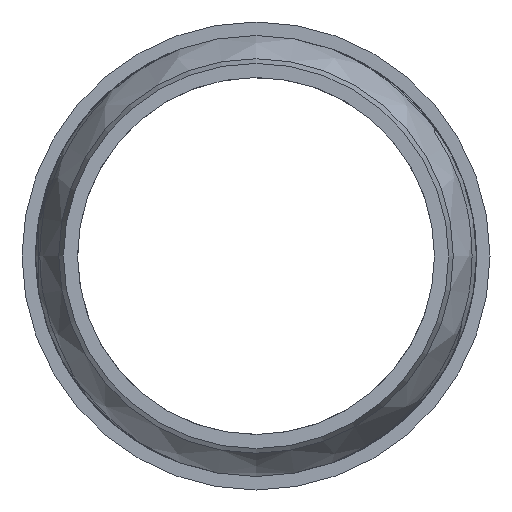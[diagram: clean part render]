
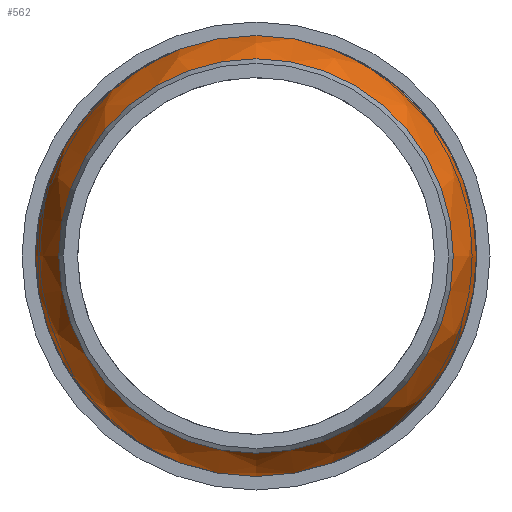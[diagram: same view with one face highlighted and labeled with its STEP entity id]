
A CAD part, left-side view. The second image highlights one B-rep face of the part: STEP entity #562.
In plain terms, the highlighted free-form (B-spline) face has degree [2, 2] with [3, 9] control points.
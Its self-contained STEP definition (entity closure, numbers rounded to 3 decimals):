
#11=(
BOUNDED_CURVE()
B_SPLINE_CURVE(2,(#2117,#2118,#2119),.UNSPECIFIED.,.F.,.F.)
B_SPLINE_CURVE_WITH_KNOTS((3,3),(0.109,0.66),
 .UNSPECIFIED.)
CURVE()
GEOMETRIC_REPRESENTATION_ITEM()
RATIONAL_B_SPLINE_CURVE((1.,0.962,1.))
REPRESENTATION_ITEM('')
);
#12=(
BOUNDED_SURFACE()
B_SPLINE_SURFACE(2,2,((#2090,#2091,#2092,#2093,#2094,#2095,#2096,#2097,
#2098),(#2099,#2100,#2101,#2102,#2103,#2104,#2105,#2106,#2107),(#2108,#2109,
#2110,#2111,#2112,#2113,#2114,#2115,#2116)),.UNSPECIFIED.,.F.,.T.,.F.)
B_SPLINE_SURFACE_WITH_KNOTS((3,3),(3,2,2,2,3),(-0.66,-0.109),
(-3.142,-1.571,0.,1.571,3.142),
 .UNSPECIFIED.)
GEOMETRIC_REPRESENTATION_ITEM()
RATIONAL_B_SPLINE_SURFACE(((1.,0.707,1.,0.707,1.,
0.707,1.,0.707,1.),(0.962,0.68,
0.962,0.68,0.962,0.68,
0.962,0.68,0.962),(1.,0.707,
1.,0.707,1.,0.707,1.,0.707,1.)))
REPRESENTATION_ITEM('')
SURFACE()
);
#147=FACE_OUTER_BOUND('',#207,.T.);
#207=EDGE_LOOP('',(#468,#469,#470,#471,#472,#473,#474));
#233=CIRCLE('',#603,50.4);
#234=CIRCLE('',#604,50.4);
#235=CIRCLE('',#605,50.4);
#241=CIRCLE('',#624,45.1);
#242=CIRCLE('',#625,45.1);
#275=VERTEX_POINT('',#1401);
#284=VERTEX_POINT('',#1813);
#285=VERTEX_POINT('',#1814);
#296=VERTEX_POINT('',#2086);
#297=VERTEX_POINT('',#2087);
#343=EDGE_CURVE('',#284,#285,#233,.T.);
#344=EDGE_CURVE('',#285,#275,#234,.T.);
#345=EDGE_CURVE('',#275,#284,#235,.T.);
#357=EDGE_CURVE('',#296,#297,#241,.T.);
#358=EDGE_CURVE('',#297,#296,#242,.T.);
#359=EDGE_CURVE('',#285,#297,#11,.T.);
#468=ORIENTED_EDGE('',*,*,#343,.F.);
#469=ORIENTED_EDGE('',*,*,#345,.F.);
#470=ORIENTED_EDGE('',*,*,#344,.F.);
#471=ORIENTED_EDGE('',*,*,#359,.T.);
#472=ORIENTED_EDGE('',*,*,#358,.T.);
#473=ORIENTED_EDGE('',*,*,#357,.T.);
#474=ORIENTED_EDGE('',*,*,#359,.F.);
#562=ADVANCED_FACE('',(#147),#12,.F.);
#603=AXIS2_PLACEMENT_3D('',#1815,#697,#698);
#604=AXIS2_PLACEMENT_3D('',#1816,#699,#700);
#605=AXIS2_PLACEMENT_3D('',#1817,#701,#702);
#624=AXIS2_PLACEMENT_3D('',#2088,#739,#740);
#625=AXIS2_PLACEMENT_3D('',#2089,#741,#742);
#697=DIRECTION('center_axis',(1.,0.,0.));
#698=DIRECTION('ref_axis',(0.,0.,
1.));
#699=DIRECTION('center_axis',(1.,0.,0.));
#700=DIRECTION('ref_axis',(0.,0.,
1.));
#701=DIRECTION('center_axis',(1.,0.,0.));
#702=DIRECTION('ref_axis',(0.,0.,
1.));
#739=DIRECTION('center_axis',(1.,0.,0.));
#740=DIRECTION('ref_axis',(0.,0.,
1.));
#741=DIRECTION('center_axis',(1.,0.,0.));
#742=DIRECTION('ref_axis',(0.,0.,
1.));
#1401=CARTESIAN_POINT('',(759.4,50.4,0.));
#1813=CARTESIAN_POINT('',(759.4,-50.4,0.));
#1814=CARTESIAN_POINT('',(759.4,0.,-50.4));
#1815=CARTESIAN_POINT('Origin',(759.4,0.,
0.));
#1816=CARTESIAN_POINT('Origin',(759.4,0.,
0.));
#1817=CARTESIAN_POINT('Origin',(759.4,0.,
0.));
#2086=CARTESIAN_POINT('',(746.3,-45.1,0.));
#2087=CARTESIAN_POINT('',(746.3,0.,-45.1));
#2088=CARTESIAN_POINT('Origin',(746.3,0.,
0.));
#2089=CARTESIAN_POINT('Origin',(746.3,0.,
0.));
#2090=CARTESIAN_POINT('Ctrl Pts',(746.3,0.,
-45.1));
#2091=CARTESIAN_POINT('Ctrl Pts',(746.3,45.1,-45.1));
#2092=CARTESIAN_POINT('Ctrl Pts',(746.3,45.1,0.));
#2093=CARTESIAN_POINT('Ctrl Pts',(746.3,45.1,45.1));
#2094=CARTESIAN_POINT('Ctrl Pts',(746.3,0.,
45.1));
#2095=CARTESIAN_POINT('Ctrl Pts',(746.3,-45.1,45.1));
#2096=CARTESIAN_POINT('Ctrl Pts',(746.3,-45.1,0.));
#2097=CARTESIAN_POINT('Ctrl Pts',(746.3,-45.1,-45.1));
#2098=CARTESIAN_POINT('Ctrl Pts',(746.3,0.,
-45.1));
#2099=CARTESIAN_POINT('Ctrl Pts',(752.102,0.,
-49.6));
#2100=CARTESIAN_POINT('Ctrl Pts',(752.102,49.6,-49.6));
#2101=CARTESIAN_POINT('Ctrl Pts',(752.102,49.6,0.));
#2102=CARTESIAN_POINT('Ctrl Pts',(752.102,49.6,49.6));
#2103=CARTESIAN_POINT('Ctrl Pts',(752.102,0.,
49.6));
#2104=CARTESIAN_POINT('Ctrl Pts',(752.102,-49.6,49.6));
#2105=CARTESIAN_POINT('Ctrl Pts',(752.102,-49.6,0.));
#2106=CARTESIAN_POINT('Ctrl Pts',(752.102,-49.6,-49.6));
#2107=CARTESIAN_POINT('Ctrl Pts',(752.102,0.,
-49.6));
#2108=CARTESIAN_POINT('Ctrl Pts',(759.4,0.,
-50.4));
#2109=CARTESIAN_POINT('Ctrl Pts',(759.4,50.4,-50.4));
#2110=CARTESIAN_POINT('Ctrl Pts',(759.4,50.4,0.));
#2111=CARTESIAN_POINT('Ctrl Pts',(759.4,50.4,50.4));
#2112=CARTESIAN_POINT('Ctrl Pts',(759.4,0.,
50.4));
#2113=CARTESIAN_POINT('Ctrl Pts',(759.4,-50.4,50.4));
#2114=CARTESIAN_POINT('Ctrl Pts',(759.4,-50.4,0.));
#2115=CARTESIAN_POINT('Ctrl Pts',(759.4,-50.4,-50.4));
#2116=CARTESIAN_POINT('Ctrl Pts',(759.4,0.,
-50.4));
#2117=CARTESIAN_POINT('Ctrl Pts',(759.4,0.,
-50.4));
#2118=CARTESIAN_POINT('Ctrl Pts',(752.102,0.,
-49.6));
#2119=CARTESIAN_POINT('Ctrl Pts',(746.3,0.,
-45.1));
